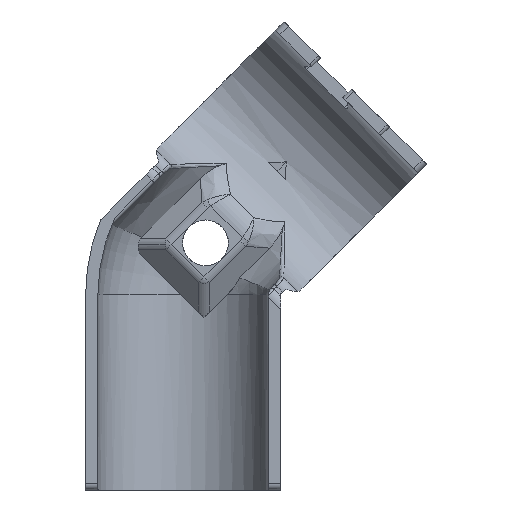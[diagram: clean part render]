
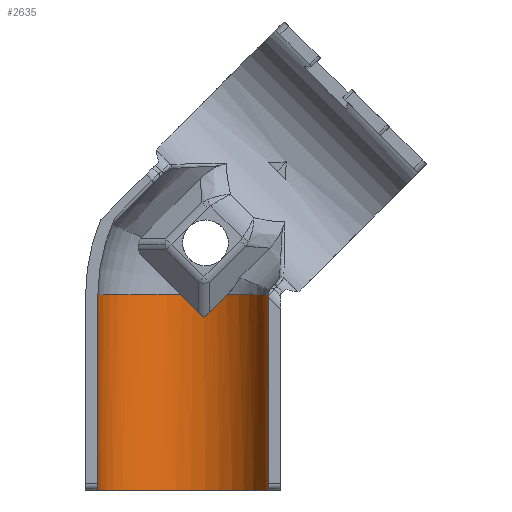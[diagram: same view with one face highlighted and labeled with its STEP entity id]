
A CAD part, front view. The second image highlights one B-rep face of the part: STEP entity #2635.
In plain terms, the highlighted cylindrical face has radius 14 mm (diameter 28 mm), a partial arc.
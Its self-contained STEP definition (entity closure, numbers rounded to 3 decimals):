
#14 = AXIS2_PLACEMENT_3D ( 'NONE', #3098, #516, #5222 ) ;
#132 = EDGE_CURVE ( 'NONE', #3107, #4172, #3621, .T. ) ;
#135 = CARTESIAN_POINT ( 'NONE',  ( 13.998, 0.25, -15. ) ) ;
#188 = DIRECTION ( 'NONE',  ( -1., 0., 0. ) ) ;
#214 = CARTESIAN_POINT ( 'NONE',  ( -0.373, 13.995, 16. ) ) ;
#304 = LINE ( 'NONE', #2477, #3495 ) ;
#375 = CARTESIAN_POINT ( 'NONE',  ( 13.944, 1.25, -16. ) ) ;
#393 = VERTEX_POINT ( 'NONE', #1927 ) ;
#399 = VERTEX_POINT ( 'NONE', #4158 ) ;
#436 = CARTESIAN_POINT ( 'NONE',  ( -13.997, 0.276, -15.262 ) ) ;
#438 = B_SPLINE_CURVE_WITH_KNOTS ( 'NONE', 3,
 ( #5165, #1713, #436, #458, #5239, #5226, #3032, #3813 ),
 .UNSPECIFIED., .F., .F.,
 ( 4, 2, 2, 4 ),
 ( 0., 0., 0.001, 0.002 ),
 .UNSPECIFIED. ) ;
#445 = CARTESIAN_POINT ( 'NONE',  ( 13.997, 0.271, 16. ) ) ;
#458 = CARTESIAN_POINT ( 'NONE',  ( -13.995, 0.376, -15.504 ) ) ;
#516 = DIRECTION ( 'NONE',  ( 0., 0., -1. ) ) ;
#530 = B_SPLINE_CURVE_WITH_KNOTS ( 'NONE', 3,
 ( #3034, #3085, #5229, #445 ),
 .UNSPECIFIED., .F., .F.,
 ( 4, 4 ),
 ( 0., 0. ),
 .UNSPECIFIED. ) ;
#564 = CARTESIAN_POINT ( 'NONE',  ( 0., 0., 16. ) ) ;
#572 = CARTESIAN_POINT ( 'NONE',  ( 13.998, 0.25, -15.264 ) ) ;
#659 = EDGE_CURVE ( 'NONE', #5143, #1533, #304, .T. ) ;
#911 = B_SPLINE_CURVE_WITH_KNOTS ( 'NONE', 3,
 ( #3816, #4667, #2127, #4713 ),
 .UNSPECIFIED., .F., .F.,
 ( 4, 4 ),
 ( 0., 0. ),
 .UNSPECIFIED. ) ;
#954 = ORIENTED_EDGE ( 'NONE', *, *, #4112, .T. ) ;
#984 = CARTESIAN_POINT ( 'NONE',  ( 3.393, 13.583, 12.234 ) ) ;
#1019 = DIRECTION ( 'NONE',  ( 0., 0., -1. ) ) ;
#1020 = EDGE_CURVE ( 'NONE', #3572, #4434, #2812, .T. ) ;
#1026 = CARTESIAN_POINT ( 'NONE',  ( 13.956, 1.118, -16. ) ) ;
#1233 = CYLINDRICAL_SURFACE ( 'NONE', #5146, 14. ) ;
#1361 = ORIENTED_EDGE ( 'NONE', *, *, #5167, .T. ) ;
#1533 = VERTEX_POINT ( 'NONE', #2031 ) ;
#1566 = DIRECTION ( 'NONE',  ( 0., 0., -1. ) ) ;
#1581 = CARTESIAN_POINT ( 'NONE',  ( 0.897, 14.029, 14.73 ) ) ;
#1601 = CARTESIAN_POINT ( 'NONE',  ( -13.944, 1.25, -16. ) ) ;
#1617 =( BOUNDED_CURVE ( )  B_SPLINE_CURVE ( 3, ( #2234, #3077, #1837, #984 ),
 .UNSPECIFIED., .F., .T. ) 
 B_SPLINE_CURVE_WITH_KNOTS ( ( 4, 4 ),
 ( 4.176, 4.468 ),
 .UNSPECIFIED. ) 
 CURVE ( )  GEOMETRIC_REPRESENTATION_ITEM ( )  RATIONAL_B_SPLINE_CURVE ( ( 1., 0.993, 0.993, 1. ) ) 
 REPRESENTATION_ITEM ( '' )  );
#1690 = LINE ( 'NONE', #4202, #4501 ) ;
#1713 = CARTESIAN_POINT ( 'NONE',  ( -13.998, 0.25, -15.132 ) ) ;
#1805 = CARTESIAN_POINT ( 'NONE',  ( 0., 0., -16. ) ) ;
#1806 = EDGE_CURVE ( 'NONE', #2823, #5307, #1690, .T. ) ;
#1837 = CARTESIAN_POINT ( 'NONE',  ( 4.72, 13.251, 13.561 ) ) ;
#1859 = CARTESIAN_POINT ( 'NONE',  ( 13.981, 0.747, -15.874 ) ) ;
#1868 = DIRECTION ( 'NONE',  ( 1., 0., 0. ) ) ;
#1911 = DIRECTION ( 'NONE',  ( 0., 0., -1. ) ) ;
#1927 = CARTESIAN_POINT ( 'NONE',  ( 13.998, 0.262, 15.929 ) ) ;
#1938 = EDGE_CURVE ( 'NONE', #5143, #393, #911, .T. ) ;
#1978 = CARTESIAN_POINT ( 'NONE',  ( 13.997, 0.271, 16. ) ) ;
#1998 = ORIENTED_EDGE ( 'NONE', *, *, #4459, .T. ) ;
#2031 = CARTESIAN_POINT ( 'NONE',  ( 13.998, 0.25, -15. ) ) ;
#2120 = AXIS2_PLACEMENT_3D ( 'NONE', #564, #3578, #4076 ) ;
#2127 = CARTESIAN_POINT ( 'NONE',  ( 13.998, 0.254, 15.826 ) ) ;
#2175 = EDGE_LOOP ( 'NONE', ( #4209, #1361, #2289, #2865, #1998, #3232, #4157, #2673, #3009, #954, #3143 ) ) ;
#2234 = CARTESIAN_POINT ( 'NONE',  ( 7.159, 12.031, 16. ) ) ;
#2289 = ORIENTED_EDGE ( 'NONE', *, *, #132, .F. ) ;
#2353 = CARTESIAN_POINT ( 'NONE',  ( 13.944, 1.25, -16. ) ) ;
#2477 = CARTESIAN_POINT ( 'NONE',  ( 13.998, 0.25, 16. ) ) ;
#2515 = DIRECTION ( 'NONE',  ( 0., 0., -1. ) ) ;
#2635 = ADVANCED_FACE ( 'NONE', ( #4432 ), #1233, .F. ) ;
#2673 = ORIENTED_EDGE ( 'NONE', *, *, #4445, .T. ) ;
#2812 = CIRCLE ( 'NONE', #3756, 14. ) ;
#2823 = VERTEX_POINT ( 'NONE', #3587 ) ;
#2865 = ORIENTED_EDGE ( 'NONE', *, *, #3215, .T. ) ;
#3009 = ORIENTED_EDGE ( 'NONE', *, *, #1020, .T. ) ;
#3032 = CARTESIAN_POINT ( 'NONE',  ( -13.968, 0.987, -16. ) ) ;
#3034 = CARTESIAN_POINT ( 'NONE',  ( 13.998, 0.262, 15.929 ) ) ;
#3040 = B_SPLINE_CURVE_WITH_KNOTS ( 'NONE', 3,
 ( #2353, #1026, #4875, #1859, #3135, #3186, #572, #135 ),
 .UNSPECIFIED., .F., .F.,
 ( 4, 2, 2, 4 ),
 ( 0., 0., 0.001, 0.002 ),
 .UNSPECIFIED. ) ;
#3077 = CARTESIAN_POINT ( 'NONE',  ( 5.984, 12.73, 14.825 ) ) ;
#3085 = CARTESIAN_POINT ( 'NONE',  ( 13.998, 0.264, 15.953 ) ) ;
#3098 = CARTESIAN_POINT ( 'NONE',  ( 0., 0., 16. ) ) ;
#3107 = VERTEX_POINT ( 'NONE', #3886 ) ;
#3135 = CARTESIAN_POINT ( 'NONE',  ( 13.986, 0.636, -15.8 ) ) ;
#3143 = ORIENTED_EDGE ( 'NONE', *, *, #659, .F. ) ;
#3186 = CARTESIAN_POINT ( 'NONE',  ( 13.997, 0.359, -15.524 ) ) ;
#3215 = EDGE_CURVE ( 'NONE', #3107, #3811, #1617, .T. ) ;
#3224 = CARTESIAN_POINT ( 'NONE',  ( -13.998, 0.25, -15. ) ) ;
#3232 = ORIENTED_EDGE ( 'NONE', *, *, #3420, .F. ) ;
#3420 = EDGE_CURVE ( 'NONE', #2823, #399, #5096, .T. ) ;
#3495 = VECTOR ( 'NONE', #1566, 1000. ) ;
#3572 = VERTEX_POINT ( 'NONE', #1601 ) ;
#3578 = DIRECTION ( 'NONE',  ( 0., 0., -1. ) ) ;
#3587 = CARTESIAN_POINT ( 'NONE',  ( -13.998, 0.25, 16. ) ) ;
#3612 =( BOUNDED_CURVE ( )  B_SPLINE_CURVE ( 3, ( #4108, #3699, #1581, #214 ),
 .UNSPECIFIED., .F., .F. ) 
 B_SPLINE_CURVE_WITH_KNOTS ( ( 4, 4 ),
 ( 1.326, 1.597 ),
 .UNSPECIFIED. ) 
 CURVE ( )  GEOMETRIC_REPRESENTATION_ITEM ( )  RATIONAL_B_SPLINE_CURVE ( ( 1., 0.994, 0.994, 1. ) ) 
 REPRESENTATION_ITEM ( '' )  );
#3621 = CIRCLE ( 'NONE', #14, 14. ) ;
#3699 = CARTESIAN_POINT ( 'NONE',  ( 2.16, 13.891, 13.467 ) ) ;
#3756 = AXIS2_PLACEMENT_3D ( 'NONE', #1805, #1019, #1868 ) ;
#3811 = VERTEX_POINT ( 'NONE', #4684 ) ;
#3813 = CARTESIAN_POINT ( 'NONE',  ( -13.944, 1.25, -16. ) ) ;
#3816 = CARTESIAN_POINT ( 'NONE',  ( 13.998, 0.25, 15.62 ) ) ;
#3886 = CARTESIAN_POINT ( 'NONE',  ( 7.159, 12.031, 16. ) ) ;
#4076 = DIRECTION ( 'NONE',  ( 1., 0., 0. ) ) ;
#4108 = CARTESIAN_POINT ( 'NONE',  ( 3.393, 13.583, 12.234 ) ) ;
#4112 = EDGE_CURVE ( 'NONE', #4434, #1533, #3040, .T. ) ;
#4157 = ORIENTED_EDGE ( 'NONE', *, *, #1806, .T. ) ;
#4158 = CARTESIAN_POINT ( 'NONE',  ( -0.373, 13.995, 16. ) ) ;
#4172 = VERTEX_POINT ( 'NONE', #1978 ) ;
#4202 = CARTESIAN_POINT ( 'NONE',  ( -13.998, 0.25, 16. ) ) ;
#4209 = ORIENTED_EDGE ( 'NONE', *, *, #1938, .T. ) ;
#4426 = CARTESIAN_POINT ( 'NONE',  ( 0., 0., 16. ) ) ;
#4432 = FACE_OUTER_BOUND ( 'NONE', #2175, .T. ) ;
#4434 = VERTEX_POINT ( 'NONE', #375 ) ;
#4445 = EDGE_CURVE ( 'NONE', #5307, #3572, #438, .T. ) ;
#4459 = EDGE_CURVE ( 'NONE', #3811, #399, #3612, .T. ) ;
#4501 = VECTOR ( 'NONE', #2515, 1000. ) ;
#4667 = CARTESIAN_POINT ( 'NONE',  ( 13.998, 0.25, 15.723 ) ) ;
#4684 = CARTESIAN_POINT ( 'NONE',  ( 3.393, 13.583, 12.234 ) ) ;
#4713 = CARTESIAN_POINT ( 'NONE',  ( 13.998, 0.262, 15.929 ) ) ;
#4875 = CARTESIAN_POINT ( 'NONE',  ( 13.966, 0.989, -15.974 ) ) ;
#5096 = CIRCLE ( 'NONE', #2120, 14. ) ;
#5143 = VERTEX_POINT ( 'NONE', #5213 ) ;
#5146 = AXIS2_PLACEMENT_3D ( 'NONE', #4426, #1911, #188 ) ;
#5165 = CARTESIAN_POINT ( 'NONE',  ( -13.998, 0.25, -15. ) ) ;
#5167 = EDGE_CURVE ( 'NONE', #393, #4172, #530, .T. ) ;
#5213 = CARTESIAN_POINT ( 'NONE',  ( 13.998, 0.25, 15.62 ) ) ;
#5222 = DIRECTION ( 'NONE',  ( 1., 0., 0. ) ) ;
#5226 = CARTESIAN_POINT ( 'NONE',  ( -13.982, 0.728, -15.892 ) ) ;
#5229 = CARTESIAN_POINT ( 'NONE',  ( 13.997, 0.267, 15.976 ) ) ;
#5239 = CARTESIAN_POINT ( 'NONE',  ( -13.993, 0.451, -15.615 ) ) ;
#5307 = VERTEX_POINT ( 'NONE', #3224 ) ;
